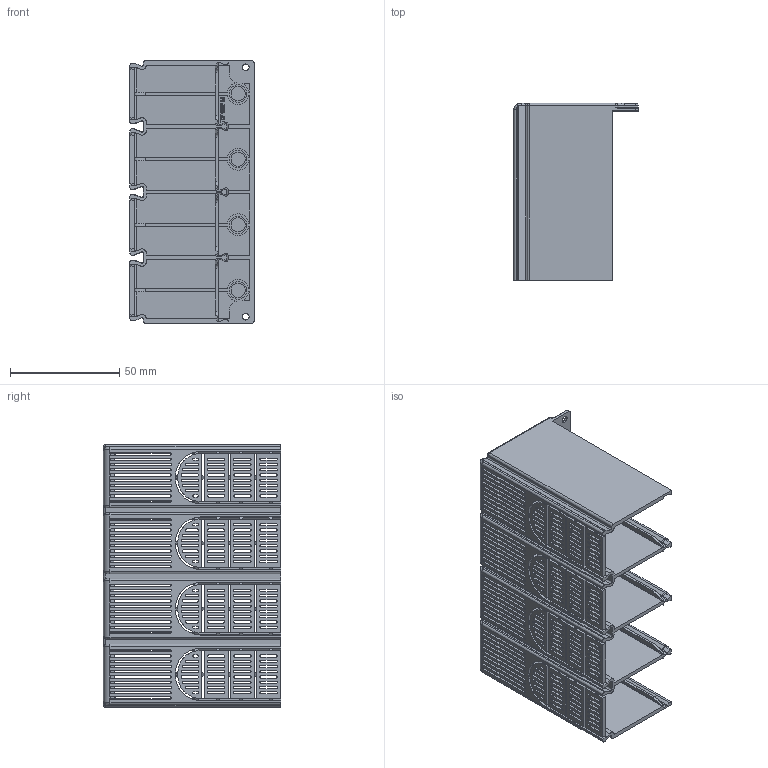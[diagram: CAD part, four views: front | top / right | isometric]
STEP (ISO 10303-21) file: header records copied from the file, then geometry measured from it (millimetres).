
FILE_DESCRIPTION((''),'2;1');
FILE_NAME('U1_4P_LONG_TERMINAL_COVER','2018-06-04T',('HHI'),(''),'PRO/ENGINEER BY PARAMETRIC TECHNOLOGY CORPORATION, 2012453','PRO/ENGINEER BY PARAMETRIC TECHNOLOGY CORPORATION, 2012453','');
FILE_SCHEMA(('CONFIG_CONTROL_DESIGN'));
Length unit declared in the file: millimetre
Products named in the file (1): U1_4P_LONG_TERMINAL_COVER
Bounding box: 56.8 x 81 x 120 mm (x, y, z)
Volume: 63055 mm3; surface area: 81437 mm2
Topology: 1 solids, 1 shells, 1646 faces, 4903 edges, 3177 vertices
Faces by surface type: plane 857, cylinder 581, extrusion 72, torus 56, cone 38, bspline 28, sphere 14
Entity records: 57276 total; most frequent: CARTESIAN_POINT 11706, ORIENTED_EDGE 9804, DIRECTION 9200, EDGE_CURVE 4902, VECTOR 3336, LINE 3264, VERTEX_POINT 3176, AXIS2_PLACEMENT_3D 2932
